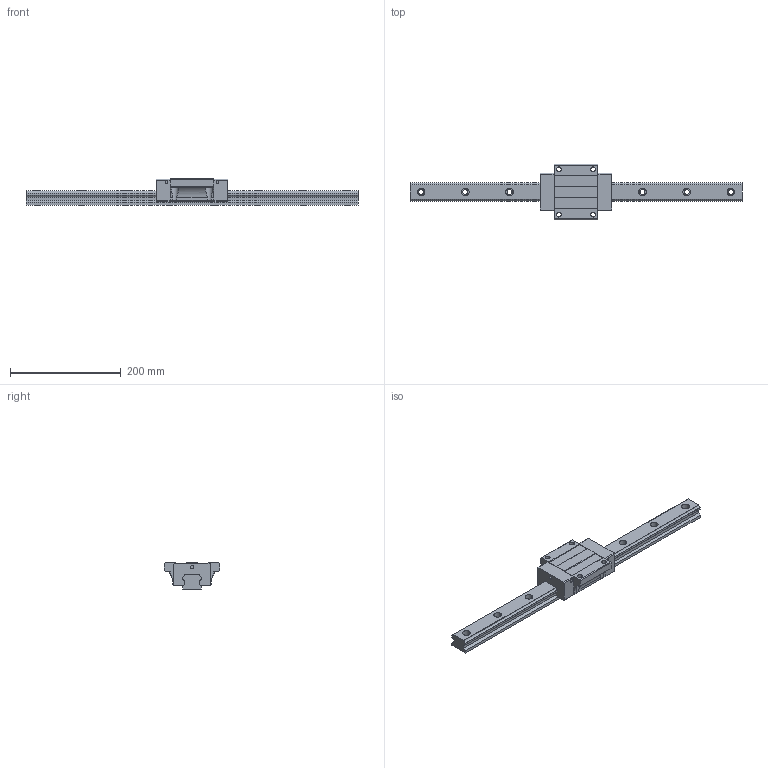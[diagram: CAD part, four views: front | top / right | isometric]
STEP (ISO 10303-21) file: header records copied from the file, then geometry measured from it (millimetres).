
FILE_DESCRIPTION (( 'STEP AP203' ), '1' );
FILE_NAME ('TRH35FN-WZ.STEP', '2024-05-09T02:46:56', ( '' ), ( '' ), 'SwSTEP 2.0', 'SolidWorks 2022', '' );
FILE_SCHEMA (( 'CONFIG_CONTROL_DESIGN' ));
Length unit declared in the file: millimetre
Products named in the file (1): TRH35FN-WZ
Bounding box: 600 x 100 x 48 mm (x, y, z)
Volume: 761442.2 mm3; surface area: 128023 mm2
Topology: 2 solids, 2 shells, 212 faces, 580 edges, 386 vertices
Faces by surface type: cylinder 112, plane 100
Entity records: 7521 total; most frequent: CARTESIAN_POINT 1873, DIRECTION 1174, ORIENTED_EDGE 1160, EDGE_CURVE 580, AXIS2_PLACEMENT_3D 409, VERTEX_POINT 386, LINE 356, VECTOR 356
